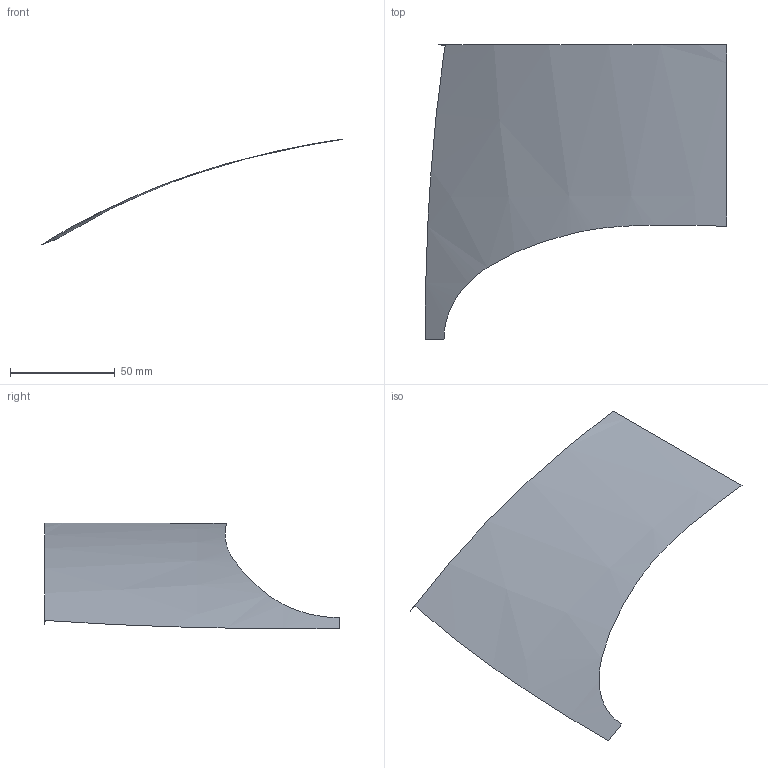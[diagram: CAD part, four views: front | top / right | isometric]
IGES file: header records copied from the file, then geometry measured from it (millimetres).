
Start section: START RECORD GO HERE
Global section: file name: s6.igs; native system: IBM CATIA IGES - CATIA SOLUTIONS V4RELEASE 1.9 REFRESH 01; preprocessor: CATIA SOLUTIONS V4RELEASE 1.9 REFRESH 01; author: cky; date: 990510.133752; units: millimetre
Bounding box: 144.38 x 140.85 x 50.66 mm (x, y, z)
Surface area: 14673.3 mm2 (no closed solid volume)
Topology: 0 solids, 0 shells, 1 faces, 43 edges, 43 vertices
Faces by surface type: bspline 1
